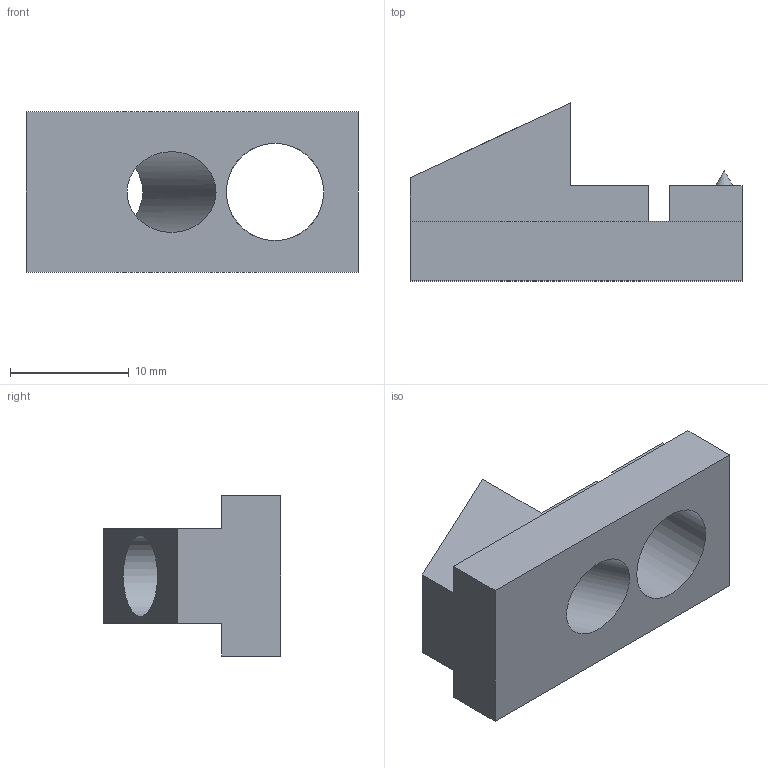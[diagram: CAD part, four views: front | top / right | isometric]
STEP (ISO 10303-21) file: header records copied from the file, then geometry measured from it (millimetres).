
FILE_DESCRIPTION (( 'STEP AP214' ), '1' );
FILE_NAME ('SN05001.step', '2024-12-03T16:31:46', ( '' ), ( '' ), 'SwSTEP 2.0', 'SolidWorks 2023', '' );
FILE_SCHEMA (( 'AUTOMOTIVE_DESIGN' ));
Length unit declared in the file: millimetre
Products named in the file (1): SN05001
Bounding box: 28 x 15 x 13.5 mm (x, y, z)
Volume: 2082.1 mm3; surface area: 1847.4 mm2
Topology: 1 solids, 1 shells, 18 faces, 51 edges, 34 vertices
Faces by surface type: plane 15, cylinder 2, cone 1
Full cylindrical faces by diameter (mm): 6.8 x1, 8.2 x1
Entity records: 583 total; most frequent: CARTESIAN_POINT 103, ORIENTED_EDGE 92, DIRECTION 90, EDGE_CURVE 46, VECTOR 38, LINE 38, VERTEX_POINT 32, AXIS2_PLACEMENT_3D 26
